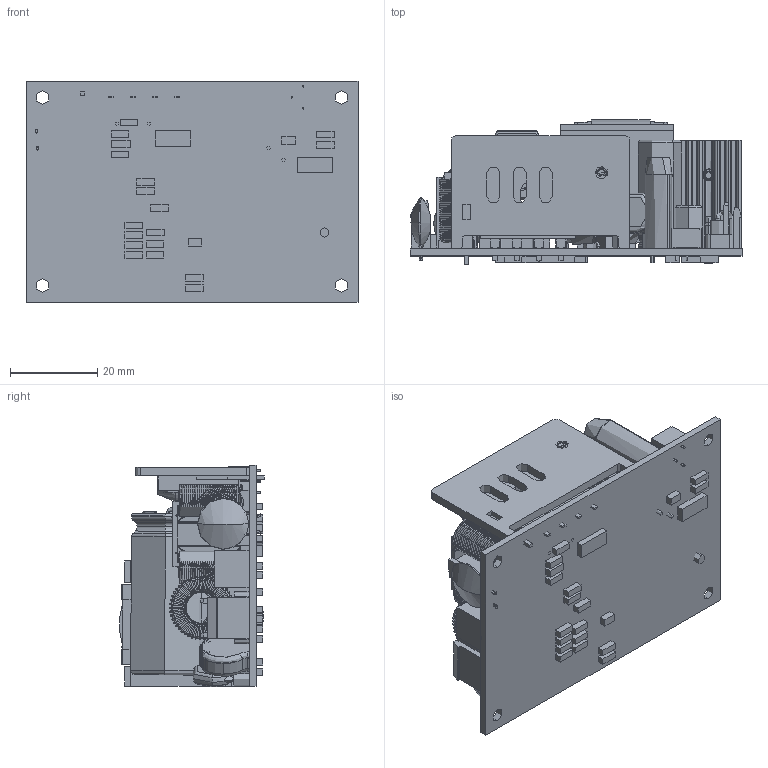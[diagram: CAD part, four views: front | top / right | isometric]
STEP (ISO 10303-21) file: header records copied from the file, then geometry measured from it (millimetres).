
FILE_DESCRIPTION (( 'STEP AP203' ), '1' );
FILE_NAME ('CFM81SXXX-CA ¦¨«~¹Ï-1130801.STEP', '2024-08-01T09:25:58', ( 'cincon' ), ( '' ), 'SwSTEP 2.0', 'SolidWorks 2020', '' );
FILE_SCHEMA (( 'CONFIG_CONTROL_DESIGN' ));
Length unit declared in the file: millimetre
Products named in the file (22): CFM81SXXX-CA 成品圖-1130801; CFM81S散熱片-1070601; 鋁擠型散熱板 H=25; 電晶體10mm(附螺絲); CFM40M CY1 990210; CFM70M 3PINｴ｡ｮy(ｵL2PIN)2020.12.11; 電感-雙線圈; Electrolitic Capacitor Radial 10x24; CFM81S 散熱片-1070601; 18x39.5電容; CY2; CFM81S L3示意圖; 陶瓷電容d8; CFM70M 4PIN插座2020.12.11; ､鎹INA; CFM80M120 電感(CORE); CY(10X16); D4; CFM81S PCB(V1.1)-1101005; 3362P001XXX0A; 橋式整流器電晶體; CFM40M CY1 990210_1091118
Assembly tree (26 placements, depth 3):
  CFM81SXXX-CA 成品圖-1130801
    CFM81S PCB(V1.1)-1101005
    CFM81S 散熱片-1070601
      CFM81S散熱片-1070601
      ､鎹INA
    CFM70M 3PINｴ｡ｮy(ｵL2PIN)2020.12.11
    Electrolitic Capacitor Radial 10x24
    18x39.5電容
    CY(10X16)  x3
    橋式整流器電晶體
    電晶體10mm(附螺絲)  x2
    CY2
    陶瓷電容d8
    CFM40M CY1 990210  x3
    D4
    電感-雙線圈
    鋁擠型散熱板 H=25
    CFM70M 4PIN插座2020.12.11
    CFM80M120 電感(CORE)
    CFM40M CY1 990210_1091118
    3362P001XXX0A
    CFM81S L3示意圖
Bounding box: 76.27 x 33.22 x 50.99 mm (x, y, z)
Topology: 33 solids, 52 shells, 3910 faces, 10394 edges, 6266 vertices
Faces by surface type: cylinder 1408, plane 1251, bspline 875, torus 322, cone 48, sphere 6
Full cylindrical faces by diameter (mm): 0.351 x2, 0.585 x7
Entity records: 382914 total; most frequent: CARTESIAN_POINT 294234, ORIENTED_EDGE 19345, DIRECTION 17004, EDGE_CURVE 9729, AXIS2_PLACEMENT_3D 6550, VERTEX_POINT 5988, VECTOR 3904, LINE 3904
